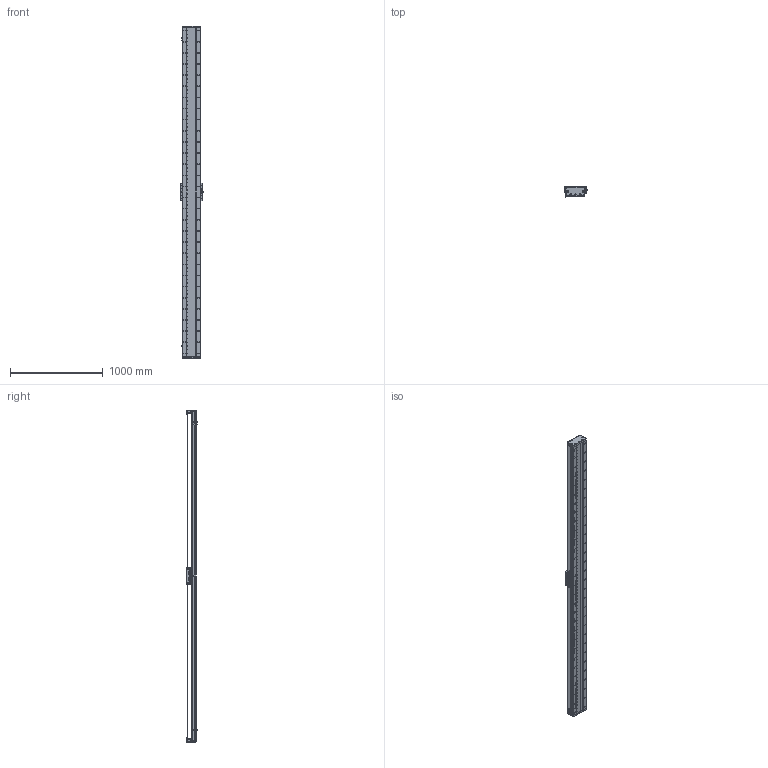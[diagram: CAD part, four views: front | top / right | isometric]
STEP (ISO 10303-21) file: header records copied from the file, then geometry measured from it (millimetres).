
FILE_DESCRIPTION (( 'STEP AP203' ), '1' );
FILE_NAME ('DA-C195-C2-T3300-C010-0.2 眻盄萇儂.STEP', '2025-08-15T01:18:56', ( '' ), ( '' ), 'SwSTEP 2.0', 'SolidWorks 2019', '' );
FILE_SCHEMA (( 'CONFIG_CONTROL_DESIGN' ));
Products named in the file (15): LMT黍杅芛; 葩璃 DA95-GT-T-00; DA-C195-GD-DB-H-00 傷啣; MS200 棠掑喜S315-T1740; DA195詩湍嶺輸; DA195詩湍郪璃; IU-CU195-L 菁釱絳寢; CU195-C2賑輸-俋楷; DA195詩湍裔啣; DA95-HXJ-00 遣喳砎蝶; IU-CU195-L-00 菁釱(L3540); DA-C195-C2-T3300-C010-0.2 眻盄萇儂; PM-T45ㄗ侂狟ㄘ; DA165-GYP-00 光电感应片(默认); DA195詩湍菜輸
Assembly tree (29 placements, depth 3):
  DA-C195-C2-T3300-C010-0.2 眻盄萇儂
    DA195詩湍郪璃
      DA195詩湍菜輸  x2
      DA195詩湍裔啣
      DA195詩湍嶺輸  x2
      DA95-HXJ-00 遣喳砎蝶  x8
      DA-C195-GD-DB-H-00 傷啣  x2
    IU-CU195-L 菁釱絳寢
      IU-CU195-L-00 菁釱(L3540)
      葩璃 DA95-GT-T-00  x4
    LMT黍杅芛
    MS200 棠掑喜S315-T1740
    PM-T45ㄗ侂狟ㄘ  x3
    DA165-GYP-00 光电感应片(默认)
    CU195-C2賑輸-俋楷
Bounding box: 248 x 115.45 x 3580 mm (x, y, z)
Volume: 19878325.6 mm3; surface area: 5943696.4 mm2
Topology: 66 solids, 130 shells, 4794 faces, 13819 edges, 8759 vertices
Faces by surface type: cylinder 2759, plane 1417, cone 530, torus 52, sphere 36
Entity records: 161685 total; most frequent: CARTESIAN_POINT 46546, ORIENTED_EDGE 24522, DIRECTION 22896, EDGE_CURVE 12261, AXIS2_PLACEMENT_3D 8625, VERTEX_POINT 7961, VECTOR 5646, LINE 5646
